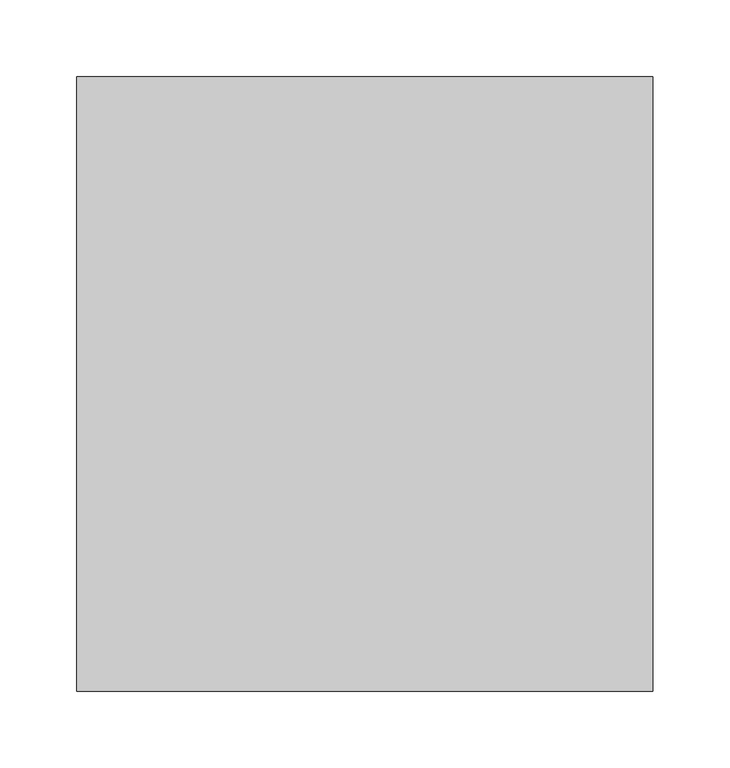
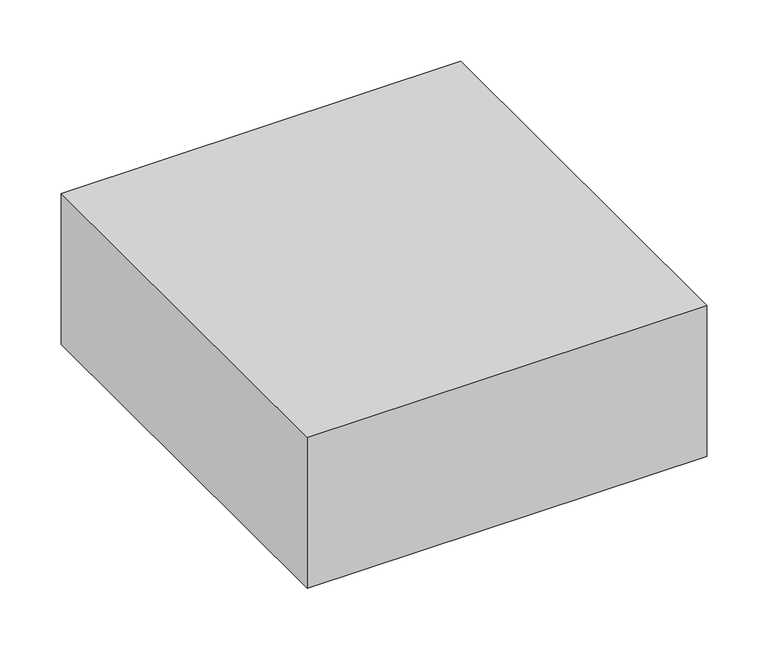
"""IFC4 building model written with IfcOpenShell, lengths in millimetres: column geometry, Column Encasement2 : Column Encasement."""

from ifc_helpers import new_model, si_unit, frame, origin, place, context, project, spatial, polyline, outline, extrude, source, transform, mapped, element, save


def column_138edc97(model_context):
    return source(origin(), model_context, "Body", "SweptSolid", [
        extrude(outline(polyline([(-28981.9712085, 16054.423117), (-28981.9712085, 15654.423117), (-29356.9712085, 15654.423117), (-29356.9712085, 16054.423117), (-28981.9712085, 16054.423117)])), frame((0.0, 0.0, -93.0), z_axis=(0.0, 0.0, 1.0), x_axis=(1.0, 0.0, 0.0)), (0.0, 0.0, 1.0), 150.0),
    ])


if __name__ == "__main__":
    model = new_model("IFC4")
    model_context = context("Model", 3, world=origin())
    ifc_project = project(units=[si_unit("LENGTHUNIT", "METRE", prefix="MILLI")], contexts=[model_context])
    site = spatial("IfcSite", under=ifc_project)
    building = spatial("IfcBuilding", under=site)
    placement = place(None, origin())
    column_shape = column_138edc97(model_context)
    element("IfcColumn", 1, ObjectType="Column Encasement2 : Column Encasement", at=placement, inside=building, context=model_context, shape_type="MappedRepresentation", body=[
        mapped(column_shape, transform((0.0, 0.0, 0.0), x_axis=(1.0, 0.0, 0.0), y_axis=(0.0, 1.0, 0.0), z_axis=(0.0, 0.0, 1.0))),
    ])
    save(model, "model.ifc")
